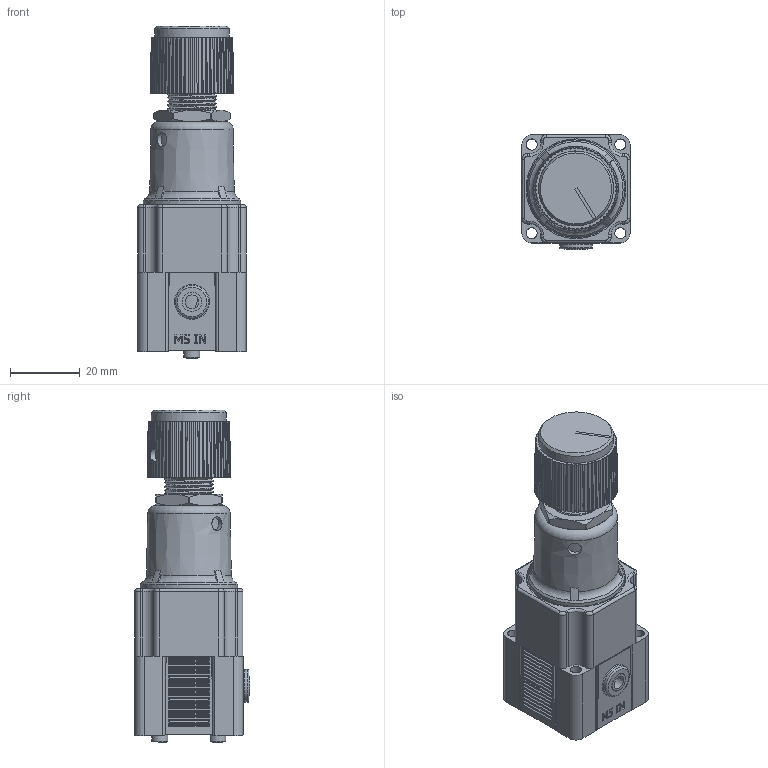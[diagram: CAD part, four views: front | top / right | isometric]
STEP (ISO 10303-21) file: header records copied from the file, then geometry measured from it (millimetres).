
FILE_DESCRIPTION(/* description */ (''),/* implementation_level */ '2;1');
FILE_NAME(/* name */ 'K:\Normteile INVENTOR\Air-Logic\Regulators\R6000\PR 6___ S M5 Threads In.igs.ipt.stp',/* time_stamp */ '2020-05-27T10:56:17+02:00',/* author */ ('Paul'),/* organization */ (''),/* preprocessor_version */ 'ST-DEVELOPER v18',/* originating_system */ 'Autodesk Inventor 2020',/* authorisation */ '');
FILE_SCHEMA (('AUTOMOTIVE_DESIGN { 1 0 10303 214 3 1 1 }'));
Length unit declared in the file: inch
Products named in the file (1): PR 6___ S M5 Threads In.igs
Bounding box: 31.19 x 32.97 x 95.02 mm (x, y, z)
Volume: 56154.4 mm3; surface area: 17158 mm2
Topology: 1 solids, 1 shells, 1000 faces, 2593 edges, 1672 vertices
Faces by surface type: plane 501, cylinder 347, cone 83, bspline 36, torus 33
Full cylindrical faces by diameter (mm): 1.194 x1, 2.032 x1, 3.124 x2, 3.175 x8, 3.962 x1, 3.988 x1, 4.064 x1, 4.521 x2, 5.486 x1, 6.248 x1, 8.382 x2, 9.169 x1, 9.398 x1, 9.652 x1, 12.903 x1, 19.406 x1, 21.476 x1, 27.94 x1, 28.575 x1
Entity records: 36869 total; most frequent: CARTESIAN_POINT 10830, DIRECTION 5421, ORIENTED_EDGE 5186, EDGE_CURVE 2593, AXIS2_PLACEMENT_3D 2076, VERTEX_POINT 1672, LINE 1269, VECTOR 1269
